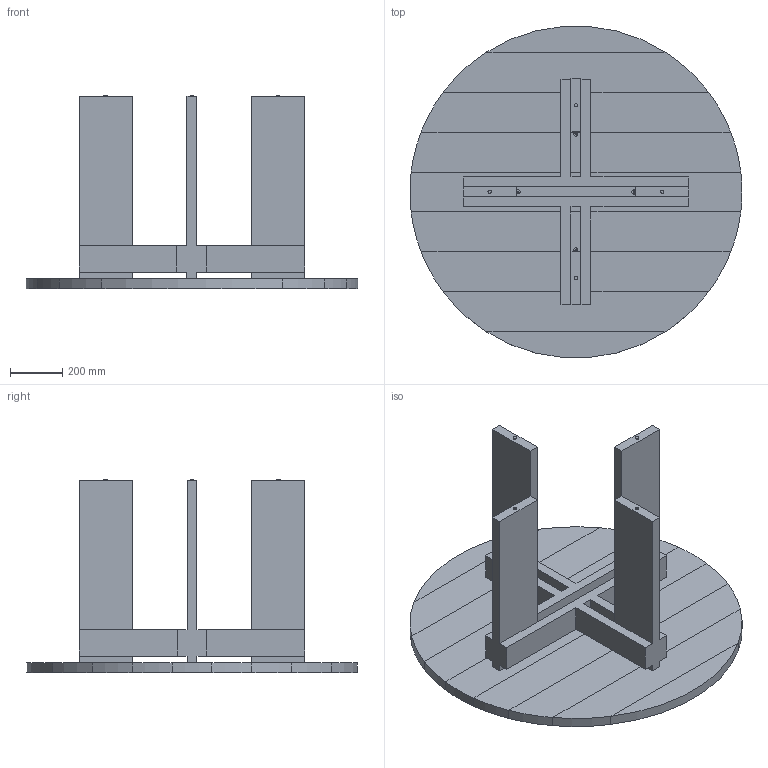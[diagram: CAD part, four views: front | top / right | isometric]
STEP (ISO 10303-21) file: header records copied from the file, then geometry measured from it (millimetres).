
FILE_DESCRIPTION (( 'STEP AP214' ), '1' );
FILE_NAME ('Chapter Table 50in PnG (Solid Body).STEP', '2021-07-20T20:25:22', ( '' ), ( '' ), 'SwSTEP 2.0', 'SolidWorks 2021', '' );
FILE_SCHEMA (( 'AUTOMOTIVE_DESIGN' ));
Length unit declared in the file: inch
Products named in the file (1): Chapter Table 50in PnG (Solid Body)
Bounding box: 1269.49 x 1265.74 x 739.77 mm (x, y, z)
Volume: 82388054.2 mm3; surface area: 5318996.1 mm2
Topology: 13 solids, 13 shells, 215 faces, 546 edges, 356 vertices
Faces by surface type: plane 145, cylinder 70
Entity records: 9451 total; most frequent: DIRECTION 1126, CARTESIAN_POINT 1118, ORIENTED_EDGE 1092, EDGE_CURVE 546, LINE 398, VECTOR 398, AXIS2_PLACEMENT_3D 364, VERTEX_POINT 356
